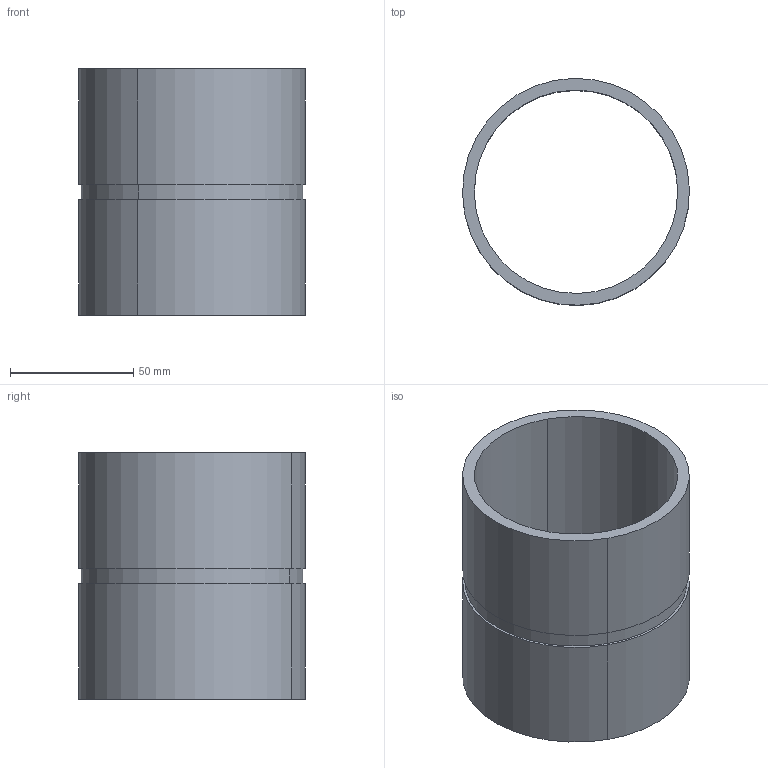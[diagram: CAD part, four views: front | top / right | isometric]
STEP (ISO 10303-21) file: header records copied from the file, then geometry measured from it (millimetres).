
FILE_DESCRIPTION(('CATIA V5 STEP Exchange'),'2;1');
FILE_NAME('C:\Users\Utente\Desktop\3D files 395H FCA\395H 19-232-0160.stp','2020-04-09T13:55:02+00:00',('none'),('none'),'CATIA Version 5 Release 20 GA (IN-10)','CATIA V5 STEP AP203','none');
FILE_SCHEMA(('CONFIG_CONTROL_DESIGN'));
Length unit declared in the file: millimetre
Products named in the file (1): 395H 19-232-0160
Bounding box: 92.05 x 92.05 x 100 mm (x, y, z)
Volume: 129639.2 mm3; surface area: 58007.6 mm2
Topology: 1 solids, 1 shells, 12 faces, 27 edges, 23 vertices
Faces by surface type: cylinder 8, plane 4
Entity records: 375 total; most frequent: CARTESIAN_POINT 61, ORIENTED_EDGE 48, DIRECTION 47, AXIS2_PLACEMENT_3D 27, EDGE_CURVE 24, CIRCLE 16, EDGE_LOOP 16, VERTEX_POINT 16
